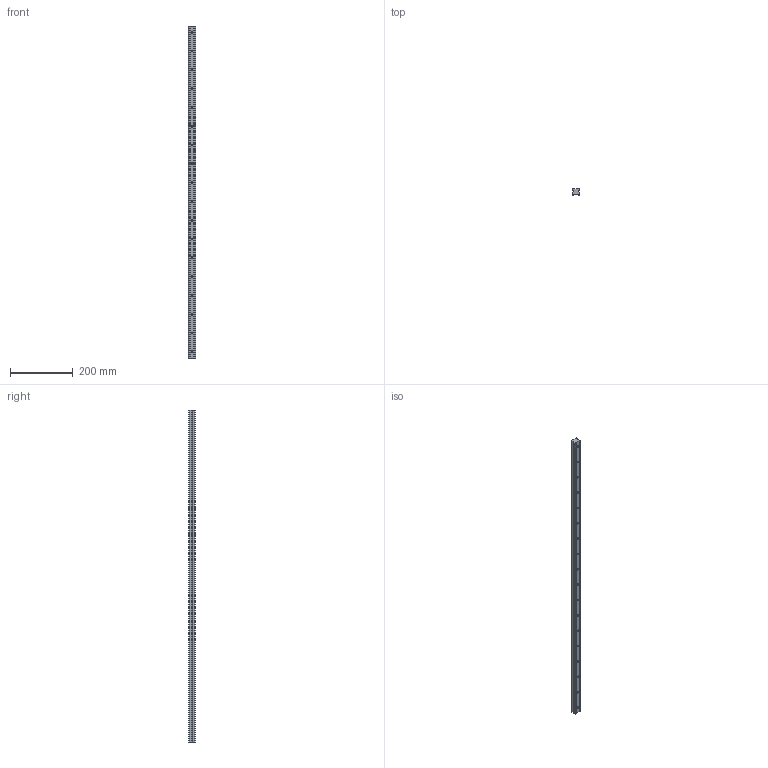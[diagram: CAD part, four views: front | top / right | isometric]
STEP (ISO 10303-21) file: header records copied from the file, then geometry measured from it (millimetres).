
FILE_DESCRIPTION (( 'STEP AP203' ), '1' );
FILE_NAME ('L1016.BRF25-1060.step', '2019-06-13T08:36:53', ( '' ), ( '' ), 'SwSTEP 2.0', 'SolidWorks 2017', '' );
FILE_SCHEMA (( 'CONFIG_CONTROL_DESIGN' ));
Length unit declared in the file: millimetre
Products named in the file (1): L1016.BRF25-1060
Bounding box: 23 x 19.2 x 1060 mm (x, y, z)
Volume: 404625.3 mm3; surface area: 98103.1 mm2
Topology: 1 solids, 1 shells, 152 faces, 360 edges, 210 vertices
Faces by surface type: cylinder 76, plane 40, cone 36
Entity records: 4213 total; most frequent: DIRECTION 782, CARTESIAN_POINT 687, ORIENTED_EDGE 648, EDGE_CURVE 324, AXIS2_PLACEMENT_3D 305, VERTEX_POINT 210, EDGE_LOOP 188, VECTOR 172
